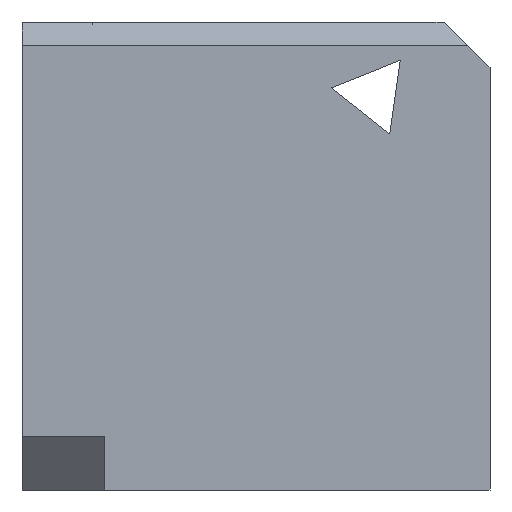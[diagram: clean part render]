
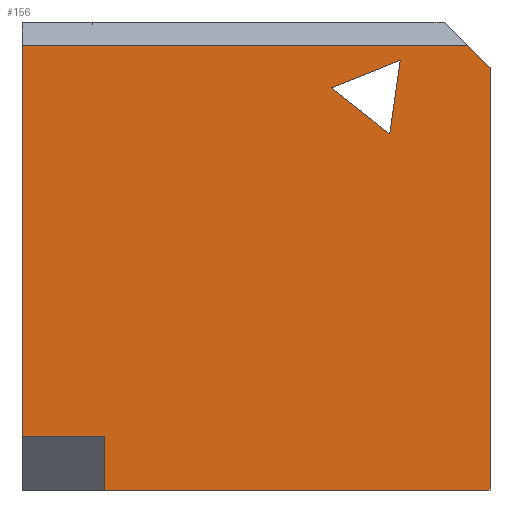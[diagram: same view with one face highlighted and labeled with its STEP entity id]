
A CAD part, left-side view. The second image highlights one B-rep face of the part: STEP entity #156.
In plain terms, the highlighted planar face has unit normal (-1, 0, 0).
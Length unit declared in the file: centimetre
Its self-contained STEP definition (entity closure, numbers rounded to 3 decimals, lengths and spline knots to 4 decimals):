
#4 = VERTEX_POINT ( 'NONE', #1353 ) ;
#5 = DIRECTION ( 'NONE',  ( 0., -0.787, -0.617 ) ) ;
#12 = VERTEX_POINT ( 'NONE', #1019 ) ;
#37 = CARTESIAN_POINT ( 'NONE',  ( 0., 823.7159, 113.9852 ) ) ;
#40 = VERTEX_POINT ( 'NONE', #689 ) ;
#45 = CARTESIAN_POINT ( 'NONE',  ( 0., 823.7159, 113.9852 ) ) ;
#59 = CARTESIAN_POINT ( 'NONE',  ( 0., 0., 1000. ) ) ;
#63 = VECTOR ( 'NONE', #99, 100. ) ;
#88 = ORIENTED_EDGE ( 'NONE', *, *, #123, .F. ) ;
#99 = DIRECTION ( 'NONE',  ( 0., -1., 0. ) ) ;
#100 = VERTEX_POINT ( 'NONE', #45 ) ;
#105 = VERTEX_POINT ( 'NONE', #511 ) ;
#123 = EDGE_CURVE ( 'NONE', #100, #738, #883, .T. ) ;
#130 = VECTOR ( 'NONE', #381, 100. ) ;
#156 = ADVANCED_FACE ( 'NONE', ( #438, #520 ), #407, .F. ) ;
#161 = LINE ( 'NONE', #1439, #1465 ) ;
#185 = EDGE_CURVE ( 'NONE', #105, #1102, #533, .T. ) ;
#191 = CARTESIAN_POINT ( 'NONE',  ( 0., 1000., 113.9852 ) ) ;
#192 = EDGE_LOOP ( 'NONE', ( #594, #218, #705 ) ) ;
#215 = CARTESIAN_POINT ( 'NONE',  ( 0., 1000., 0. ) ) ;
#218 = ORIENTED_EDGE ( 'NONE', *, *, #185, .F. ) ;
#286 = DIRECTION ( 'NONE',  ( 0., 0., -1. ) ) ;
#310 = DIRECTION ( 'NONE',  ( 0., -0.141, 0.99 ) ) ;
#314 = AXIS2_PLACEMENT_3D ( 'NONE', #625, #414, #286 ) ;
#329 = ORIENTED_EDGE ( 'NONE', *, *, #903, .T. ) ;
#351 = CARTESIAN_POINT ( 'NONE',  ( 0., 1000., 113.9852 ) ) ;
#374 = CARTESIAN_POINT ( 'NONE',  ( 0., 0., 901.7349 ) ) ;
#381 = DIRECTION ( 'NONE',  ( 0., 0.928, -0.373 ) ) ;
#407 = PLANE ( 'NONE',  #314 ) ;
#414 = DIRECTION ( 'NONE',  ( 1., 0., 0. ) ) ;
#424 = EDGE_CURVE ( 'NONE', #1102, #40, #964, .T. ) ;
#436 = DIRECTION ( 'NONE',  ( 0., 0.707, 0.707 ) ) ;
#438 = FACE_BOUND ( 'NONE', #192, .T. ) ;
#461 = LINE ( 'NONE', #215, #63 ) ;
#473 = ORIENTED_EDGE ( 'NONE', *, *, #663, .T. ) ;
#477 = VECTOR ( 'NONE', #509, 100. ) ;
#491 = EDGE_CURVE ( 'NONE', #1184, #1496, #1443, .T. ) ;
#509 = DIRECTION ( 'NONE',  ( 0., 1., 0. ) ) ;
#511 = CARTESIAN_POINT ( 'NONE',  ( 0., 214.2432, 760.7434 ) ) ;
#520 = FACE_OUTER_BOUND ( 'NONE', #923, .T. ) ;
#533 = LINE ( 'NONE', #1365, #1217 ) ;
#538 = LINE ( 'NONE', #59, #1013 ) ;
#594 = ORIENTED_EDGE ( 'NONE', *, *, #424, .F. ) ;
#608 = DIRECTION ( 'NONE',  ( 0., 0., -1. ) ) ;
#625 = CARTESIAN_POINT ( 'NONE',  ( 0., 1000., 1000. ) ) ;
#663 = EDGE_CURVE ( 'NONE', #12, #4, #461, .T. ) ;
#689 = CARTESIAN_POINT ( 'NONE',  ( 0., 339.6237, 859.0914 ) ) ;
#705 = ORIENTED_EDGE ( 'NONE', *, *, #1329, .F. ) ;
#735 = CARTESIAN_POINT ( 'NONE',  ( 0., 1000., 949.7566 ) ) ;
#738 = VERTEX_POINT ( 'NONE', #351 ) ;
#761 = LINE ( 'NONE', #1357, #1116 ) ;
#797 = LINE ( 'NONE', #1525, #968 ) ;
#828 = CARTESIAN_POINT ( 'NONE',  ( 0., 1000., 949.7566 ) ) ;
#835 = CARTESIAN_POINT ( 'NONE',  ( 0., 191.7616, 918.5001 ) ) ;
#844 = CARTESIAN_POINT ( 'NONE',  ( 0., 191.7616, 918.5001 ) ) ;
#871 = DIRECTION ( 'NONE',  ( 0., 1., 0. ) ) ;
#883 = LINE ( 'NONE', #191, #1273 ) ;
#902 = ORIENTED_EDGE ( 'NONE', *, *, #1001, .T. ) ;
#903 = EDGE_CURVE ( 'NONE', #100, #12, #1081, .T. ) ;
#923 = EDGE_LOOP ( 'NONE', ( #88, #329, #473, #1151, #902, #1323, #1376 ) ) ;
#964 = LINE ( 'NONE', #844, #130 ) ;
#968 = VECTOR ( 'NONE', #5, 100. ) ;
#1001 = EDGE_CURVE ( 'NONE', #1126, #1184, #761, .T. ) ;
#1013 = VECTOR ( 'NONE', #1238, 100. ) ;
#1019 = CARTESIAN_POINT ( 'NONE',  ( 0., 823.7159, 0. ) ) ;
#1076 = VECTOR ( 'NONE', #608, 100. ) ;
#1081 = LINE ( 'NONE', #37, #1076 ) ;
#1102 = VERTEX_POINT ( 'NONE', #835 ) ;
#1116 = VECTOR ( 'NONE', #436, 100. ) ;
#1126 = VERTEX_POINT ( 'NONE', #374 ) ;
#1151 = ORIENTED_EDGE ( 'NONE', *, *, #1182, .F. ) ;
#1178 = DIRECTION ( 'NONE',  ( 0., 0., -1. ) ) ;
#1182 = EDGE_CURVE ( 'NONE', #1126, #4, #538, .T. ) ;
#1184 = VERTEX_POINT ( 'NONE', #1472 ) ;
#1217 = VECTOR ( 'NONE', #310, 100. ) ;
#1238 = DIRECTION ( 'NONE',  ( 0., 0., -1. ) ) ;
#1273 = VECTOR ( 'NONE', #871, 100. ) ;
#1323 = ORIENTED_EDGE ( 'NONE', *, *, #491, .T. ) ;
#1329 = EDGE_CURVE ( 'NONE', #40, #105, #797, .T. ) ;
#1353 = CARTESIAN_POINT ( 'NONE',  ( 0., 0., 0. ) ) ;
#1357 = CARTESIAN_POINT ( 'NONE',  ( 0., 98.2651, 1000. ) ) ;
#1365 = CARTESIAN_POINT ( 'NONE',  ( 0., 214.2432, 760.7434 ) ) ;
#1376 = ORIENTED_EDGE ( 'NONE', *, *, #1518, .T. ) ;
#1439 = CARTESIAN_POINT ( 'NONE',  ( 0., 1000., 1000. ) ) ;
#1443 = LINE ( 'NONE', #735, #477 ) ;
#1465 = VECTOR ( 'NONE', #1178, 100. ) ;
#1472 = CARTESIAN_POINT ( 'NONE',  ( 0., 48.0216, 949.7566 ) ) ;
#1496 = VERTEX_POINT ( 'NONE', #828 ) ;
#1518 = EDGE_CURVE ( 'NONE', #1496, #738, #161, .T. ) ;
#1525 = CARTESIAN_POINT ( 'NONE',  ( 0., 339.6237, 859.0914 ) ) ;
